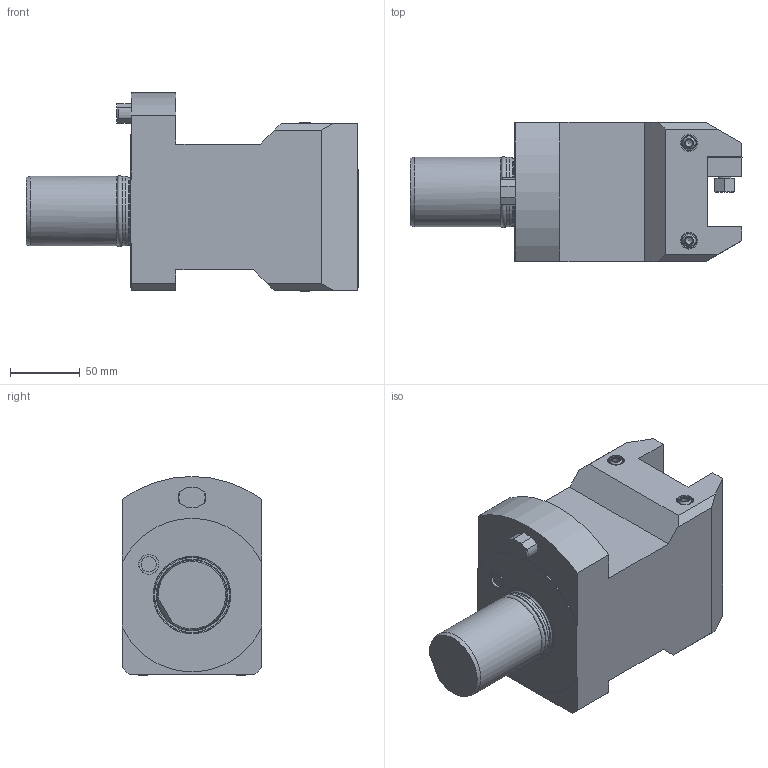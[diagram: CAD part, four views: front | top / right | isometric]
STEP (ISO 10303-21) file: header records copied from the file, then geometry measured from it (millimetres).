
FILE_DESCRIPTION(/* description */ (''),/* implementation_level */ '2;1');
FILE_NAME(/* name */ '118012',/* time_stamp */ '2020-11-16T08:54:10+01:00',/* author */ (''),/* organization */ (''),/* preprocessor_version */ 'ST-DEVELOPER v16.5',/* originating_system */ 'HiCAD 2017 2201.0 Build 268',/* authorisation */ '');
FILE_SCHEMA (('AUTOMOTIVE_DESIGN { 1 0 10303 214 1 1 1 1 }'));
Length unit declared in the file: millimetre
Products named in the file (41): Root; Leeres Teil; 114030_O-Ring 42x3.5_330*; 173498_Kantsealring 10.82x1.68_331*; Gruppe ; 197277_SPRITZDUESE TIKT M12X1-M6_350*; DIN 13-M12x1; ROTATIONSTEIL_0; DIN 13-M6; TORUS_0; 00021672_110*; 130249_Schraube M12 SW14_130*; ҥޚ; ۾Ƃ; 00090752; ZYLINDER_0; DIN 76-M12x1
Assembly tree (40 placements, depth 6):
  Root
    Leeres Teil
      Leeres Teil
        114030_O-Ring 42x3.5_330*
        173498_Kantsealring 10.82x1.68_331*
      Gruppe 
        197277_SPRITZDUESE TIKT M12X1-M6_350*
          DIN 13-M12x1
          ROTATIONSTEIL_0
            DIN 13-M6
          TORUS_0
        197277_SPRITZDUESE TIKT M12X1-M6_350*
          DIN 13-M12x1
          ROTATIONSTEIL_0
            DIN 13-M6
          TORUS_0
      Gruppe 
        197277_SPRITZDUESE TIKT M12X1-M6_350*
          DIN 13-M12x1
          ROTATIONSTEIL_0
            DIN 13-M6
          TORUS_0
        197277_SPRITZDUESE TIKT M12X1-M6_350*
          DIN 13-M12x1
          ROTATIONSTEIL_0
            DIN 13-M6
          TORUS_0
      Leeres Teil
        00021672_110*
        Gruppe 
        Gruppe 
          130249_Schraube M12 SW14_130*
            (unnamed)
          130249_Schraube M12 SW14_130*
            ҥޚ
          130249_Schraube M12 SW14_130*
            ۾Ƃ
      00090752
      ZYLINDER_0
        DIN 76-M12x1
        DIN 76-M12x1
Bounding box: 238 x 100 x 142.66 mm (x, y, z)
Volume: 1791704.6 mm3; surface area: 133055.2 mm2
Topology: 32 solids, 32 shells, 393 faces, 1031 edges, 680 vertices
Faces by surface type: plane 234, cylinder 73, cone 69, torus 9, sphere 8
Full cylindrical faces by diameter (mm): 5 x4, 6 x8, 9.6 x3, 9.92 x4, 10.82 x1, 11 x16, 12 x12, 14.18 x1, 14.27 x1, 43.8 x1, 48.7 x1, 50 x2
Entity records: 23311 total; most frequent: CARTESIAN_POINT 4809, DIRECTION 2205, PRESENTATION_STYLE_ASSIGNMENT 1726, ORIENTED_EDGE 1704, COLOUR_RGB 1699, DRAUGHTING_PRE_DEFINED_CURVE_FONT 1696, CURVE_STYLE 1696, OVER_RIDING_STYLED_ITEM 1696
